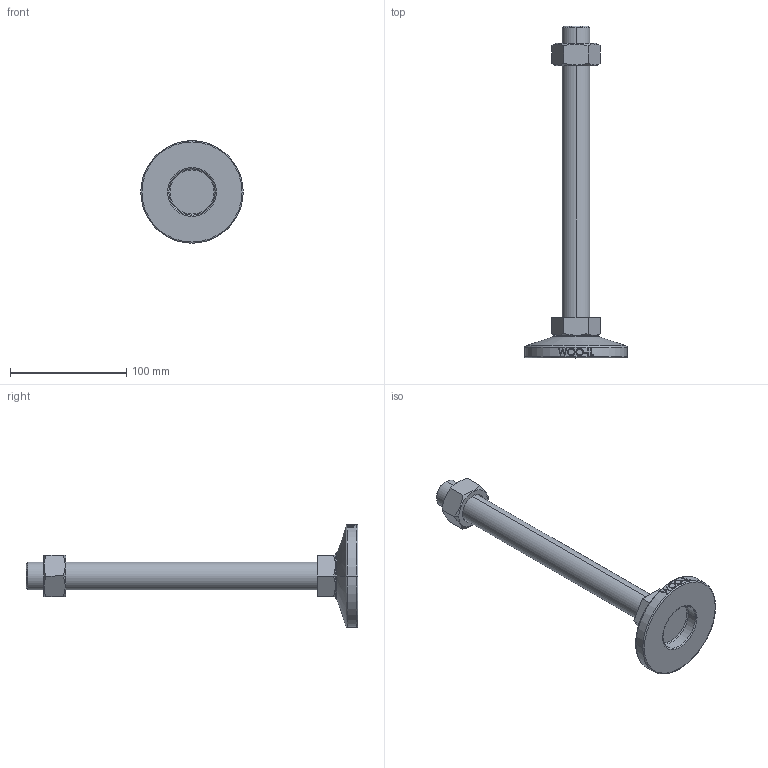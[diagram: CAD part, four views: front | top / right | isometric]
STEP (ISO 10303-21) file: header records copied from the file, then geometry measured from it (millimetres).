
FILE_DESCRIPTION (( 'STEP AP214' ), '1' );
FILE_NAME ('MFT88-M24-250.step', '2021-03-29T04:45:32', ( '' ), ( '' ), 'SwSTEP 2.0', 'SolidWorks 2019', '' );
FILE_SCHEMA (( 'AUTOMOTIVE_DESIGN' ));
Length unit declared in the file: millimetre
Products named in the file (2): MFT88-M24-250
Bounding box: 88 x 285 x 88 mm (x, y, z)
Volume: 219095.6 mm3; surface area: 44176.3 mm2
Topology: 3 solids, 3 shells, 106 faces, 243 edges, 154 vertices
Faces by surface type: plane 48, cylinder 18, bspline 16, cone 14, torus 10
Entity records: 4538 total; most frequent: CARTESIAN_POINT 2195, ORIENTED_EDGE 486, DIRECTION 439, EDGE_CURVE 243, AXIS2_PLACEMENT_3D 170, VERTEX_POINT 154, EDGE_LOOP 119, FACE_OUTER_BOUND 106
